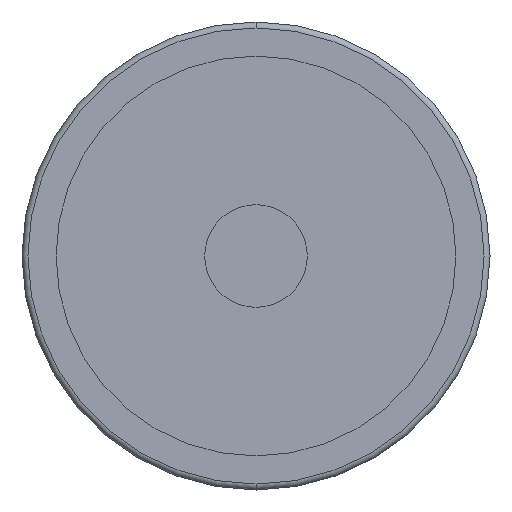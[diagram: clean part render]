
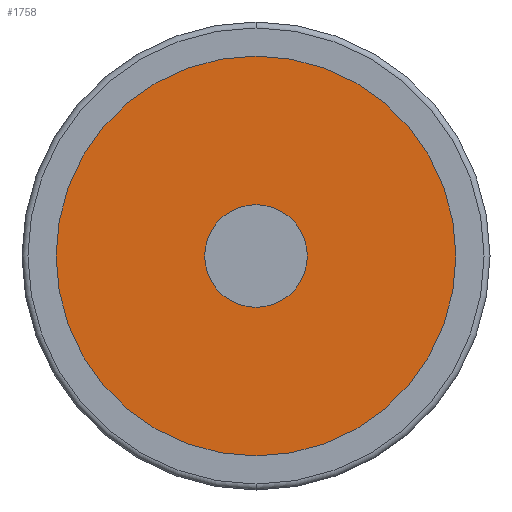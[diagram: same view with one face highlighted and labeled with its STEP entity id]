
A CAD part, front view. The second image highlights one B-rep face of the part: STEP entity #1758.
In plain terms, the highlighted planar face has unit normal (0, -1, 0).
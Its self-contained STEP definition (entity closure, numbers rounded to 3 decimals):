
#10 = ORIENTED_EDGE ( 'NONE', *, *, #173, .F. ) ;
#173 = EDGE_CURVE ( 'NONE', #628, #1219, #1342, .T. ) ;
#237 = CARTESIAN_POINT ( 'NONE',  ( 8., 4.5, 0. ) ) ;
#296 = CARTESIAN_POINT ( 'NONE',  ( 0., 4.5, 0. ) ) ;
#347 = CIRCLE ( 'NONE', #2180, 34.25 ) ;
#495 = CARTESIAN_POINT ( 'NONE',  ( 0., 4.5, 0. ) ) ;
#547 = CIRCLE ( 'NONE', #2269, 8. ) ;
#591 = DIRECTION ( 'NONE',  ( 1., 0., 0. ) ) ;
#628 = VERTEX_POINT ( 'NONE', #237 ) ;
#646 = AXIS2_PLACEMENT_3D ( 'NONE', #3040, #2541, #591 ) ;
#658 = EDGE_CURVE ( 'NONE', #1740, #709, #347, .T. ) ;
#709 = VERTEX_POINT ( 'NONE', #2869 ) ;
#715 = ORIENTED_EDGE ( 'NONE', *, *, #2017, .F. ) ;
#737 = DIRECTION ( 'NONE',  ( 1., 0., 0. ) ) ;
#772 = EDGE_CURVE ( 'NONE', #709, #1740, #1294, .T. ) ;
#800 = PLANE ( 'NONE',  #646 ) ;
#843 = DIRECTION ( 'NONE',  ( 1., 0., 0. ) ) ;
#909 = CARTESIAN_POINT ( 'NONE',  ( -8., 4.5, 0. ) ) ;
#1215 = DIRECTION ( 'NONE',  ( 0., -1., 0. ) ) ;
#1219 = VERTEX_POINT ( 'NONE', #909 ) ;
#1294 = CIRCLE ( 'NONE', #3131, 34.25 ) ;
#1342 = CIRCLE ( 'NONE', #1451, 8. ) ;
#1451 = AXIS2_PLACEMENT_3D ( 'NONE', #296, #3240, #737 ) ;
#1740 = VERTEX_POINT ( 'NONE', #2261 ) ;
#1758 = ADVANCED_FACE ( 'NONE', ( #2048, #3057 ), #800, .T. ) ;
#1877 = CARTESIAN_POINT ( 'NONE',  ( 0., 4.5, 0. ) ) ;
#1900 = EDGE_LOOP ( 'NONE', ( #10, #715 ) ) ;
#2017 = EDGE_CURVE ( 'NONE', #1219, #628, #547, .T. ) ;
#2048 = FACE_OUTER_BOUND ( 'NONE', #2867, .T. ) ;
#2120 = DIRECTION ( 'NONE',  ( 0., -1., 0. ) ) ;
#2180 = AXIS2_PLACEMENT_3D ( 'NONE', #1877, #3087, #843 ) ;
#2261 = CARTESIAN_POINT ( 'NONE',  ( -34.25, 4.5, 0. ) ) ;
#2269 = AXIS2_PLACEMENT_3D ( 'NONE', #495, #1215, #3236 ) ;
#2343 = ORIENTED_EDGE ( 'NONE', *, *, #772, .T. ) ;
#2541 = DIRECTION ( 'NONE',  ( 0., -1., 0. ) ) ;
#2605 = DIRECTION ( 'NONE',  ( 1., 0., 0. ) ) ;
#2807 = CARTESIAN_POINT ( 'NONE',  ( 0., 4.5, 0. ) ) ;
#2835 = ORIENTED_EDGE ( 'NONE', *, *, #658, .T. ) ;
#2867 = EDGE_LOOP ( 'NONE', ( #2835, #2343 ) ) ;
#2869 = CARTESIAN_POINT ( 'NONE',  ( 34.25, 4.5, 0. ) ) ;
#3040 = CARTESIAN_POINT ( 'NONE',  ( -34.25, 4.5, 0. ) ) ;
#3057 = FACE_BOUND ( 'NONE', #1900, .T. ) ;
#3087 = DIRECTION ( 'NONE',  ( 0., -1., 0. ) ) ;
#3131 = AXIS2_PLACEMENT_3D ( 'NONE', #2807, #2120, #2605 ) ;
#3236 = DIRECTION ( 'NONE',  ( 1., 0., 0. ) ) ;
#3240 = DIRECTION ( 'NONE',  ( 0., -1., 0. ) ) ;
